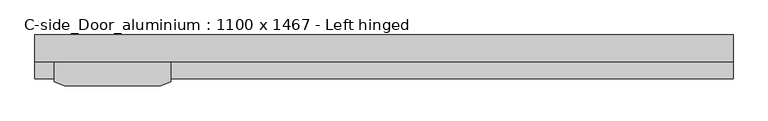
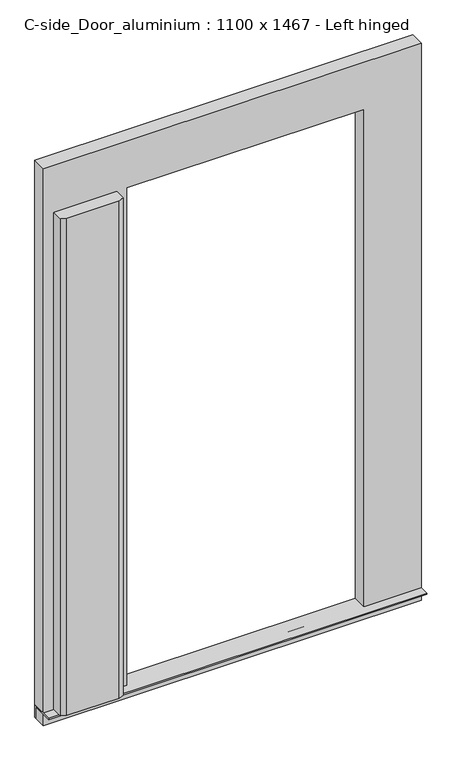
"""IFC4 building model written with IfcOpenShell, lengths in millimetres: proxy geometry, C-side_Door_aluminium : 1100 x 1467 - Left hinged."""

from ifc_helpers import new_model, si_unit, frame, origin, place, context, project, spatial, polyline, outline, extrude, source, transform, mapped, element, save


def c_side_door_aluminium_1100_x_1467_left_hinged_1f668657(model_context):
    return source(origin(), model_context, "Body", "SweptSolid", [
        extrude(outline(polyline([(0.0, 0.0), (-5.0, 0.0), (-5.0, 45.0), (-90.0, 45.0), (-90.0, 50.0), (0.0, 50.0), (0.0, 0.0)])), frame((0.0, 0.0, 0.0), z_axis=(1.0, 0.0, 0.0), x_axis=(0.0, 1.0, 0.0)), (0.0, 0.0, 1.0), 1440.0),
        extrude(outline(polyline([(40.0, -97.0), (40.0, -55.0), (280.0, -55.0), (280.0, -97.0), (260.0, -105.0), (60.0, -105.0), (40.0, -97.0)])), frame((0.0, 0.0, 50.0), z_axis=(0.0, 0.0, 1.0), x_axis=(1.0, 0.0, 0.0)), (0.0, 0.0, 1.0), 2000.0),
        extrude(outline(polyline([(2240.0, 0.0), (0.0, 0.0), (0.0, 1440.0), (2240.0, 1440.0), (2240.0, 0.0)]), holes=[polyline([(2050.0, 320.0), (2050.0, 1220.0), (50.0, 1220.0), (50.0, 320.0), (2050.0, 320.0)])]), frame((0.0, -55.0, 0.0), z_axis=(0.0, 1.0, 0.0), x_axis=(0.0, 0.0, 1.0)), (0.0, 0.0, 1.0), 55.0),
    ])


if __name__ == "__main__":
    model = new_model("IFC4")
    model_context = context("Model", 3, world=origin())
    ifc_project = project(units=[si_unit("LENGTHUNIT", "METRE", prefix="MILLI")], contexts=[model_context])
    site = spatial("IfcSite", under=ifc_project)
    building = spatial("IfcBuilding", under=site)
    placement = place(None, origin())
    c_side_door_aluminium_1100_x_1467_left_hinged_shape = c_side_door_aluminium_1100_x_1467_left_hinged_1f668657(model_context)
    element("IfcBuildingElementProxy", 1, Name="C-side_Door_aluminium : 1100 x 1467 - Left hinged", ObjectType="C-side_Door_aluminium : 1100 x 1467 - Left hinged", at=placement, inside=building, context=model_context, shape_type="MappedRepresentation", body=[
        mapped(c_side_door_aluminium_1100_x_1467_left_hinged_shape, transform((0.0, 0.0, 0.0), x_axis=(1.0, 0.0, 0.0), y_axis=(0.0, 1.0, 0.0), z_axis=(0.0, 0.0, 1.0))),
    ])
    save(model, "model.ifc")
